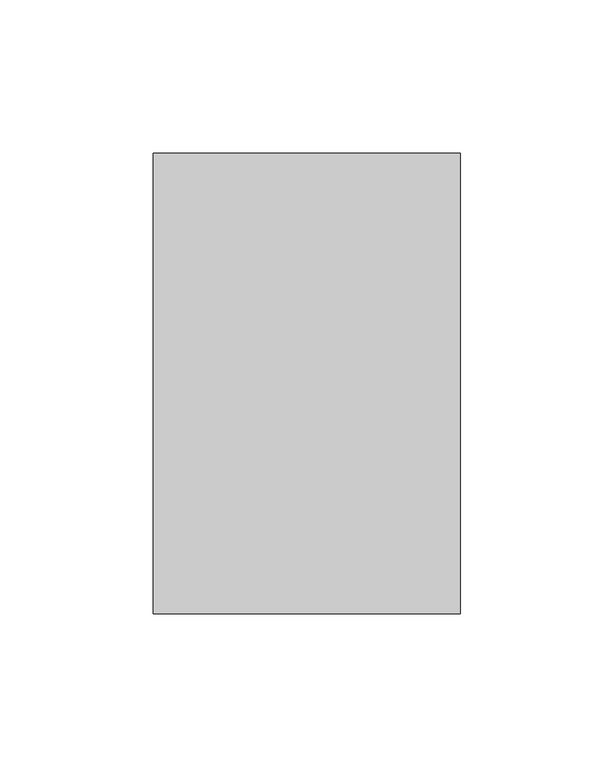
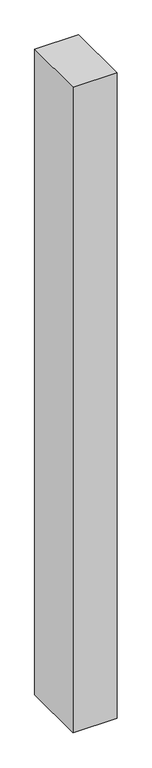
"""IFC4 building model written with IfcOpenShell, lengths in millimetres: member geometry, 矩形竖梃 : 教学楼 – 矩形竖梃 – 100x150mm."""

from ifc_helpers import new_model, si_unit, frame, origin, place, context, project, spatial, polyline, outline, extrude, source, transform, mapped, element, save


def member_21953a3b(model_context):
    return source(origin(), model_context, "Body", "SweptSolid", [
        extrude(outline(polyline([(0.0, 75.0), (0.0, -75.0), (-100.0, -75.0), (-100.0, 75.0), (0.0, 75.0)])), frame((0.0, 0.0, -1550.0), z_axis=(0.0, 0.0, 1.0), x_axis=(1.0, 0.0, 0.0)), (0.0, 0.0, 1.0), 1550.0),
    ])


if __name__ == "__main__":
    model = new_model("IFC4")
    model_context = context("Model", 3, world=origin())
    ifc_project = project(units=[si_unit("LENGTHUNIT", "METRE", prefix="MILLI")], contexts=[model_context])
    site = spatial("IfcSite", under=ifc_project)
    building = spatial("IfcBuilding", under=site)
    placement = place(None, origin())
    member_shape = member_21953a3b(model_context)
    element("IfcMember", 1, ObjectType="矩形竖梃 : 教学楼 – 矩形竖梃 – 100x150mm", at=placement, inside=building, context=model_context, shape_type="MappedRepresentation", body=[
        mapped(member_shape, transform((0.0, 0.0, 0.0), x_axis=(1.0, 0.0, 0.0), y_axis=(0.0, 1.0, 0.0), z_axis=(0.0, 0.0, 1.0))),
    ])
    save(model, "model.ifc")
